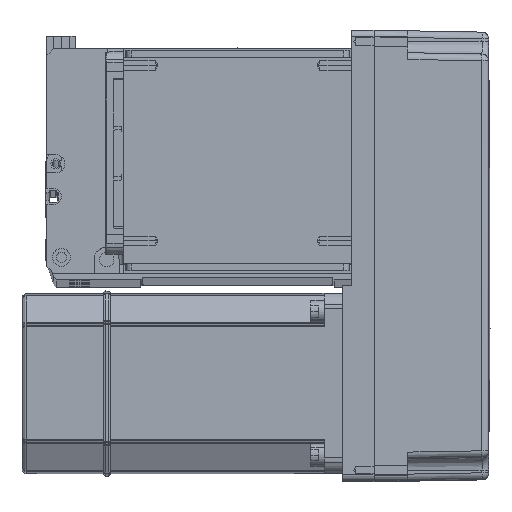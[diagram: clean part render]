
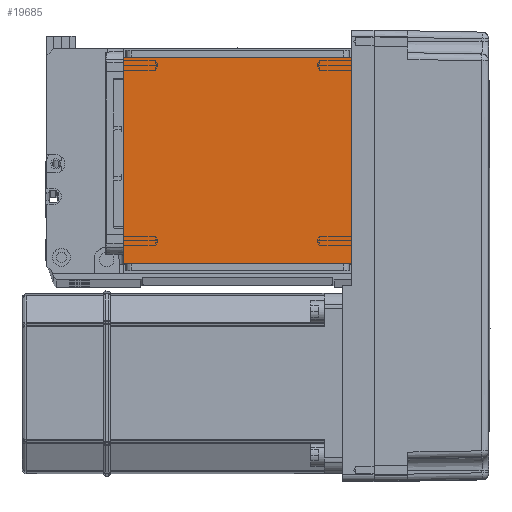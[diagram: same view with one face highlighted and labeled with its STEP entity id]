
A CAD part, top view. The second image highlights one B-rep face of the part: STEP entity #19685.
In plain terms, the highlighted planar face has unit normal (0, 0, 1).
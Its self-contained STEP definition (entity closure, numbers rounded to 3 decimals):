
#88 = EDGE_LOOP ( 'NONE', ( #20170, #49198, #53006, #60337 ) ) ;
#1055 = DIRECTION ( 'NONE',  ( 1., 0., 0. ) ) ;
#7937 = DIRECTION ( 'NONE',  ( 0., 1., 0. ) ) ;
#10559 = DIRECTION ( 'NONE',  ( 0., 0., 1. ) ) ;
#11275 = CARTESIAN_POINT ( 'NONE',  ( -50.5, 20., 115. ) ) ;
#14783 = CARTESIAN_POINT ( 'NONE',  ( -70.004, 20., 115. ) ) ;
#19685 = ADVANCED_FACE ( 'NONE', ( #60987 ), #33492, .T. ) ;
#20170 = ORIENTED_EDGE ( 'NONE', *, *, #55643, .F. ) ;
#23753 = CARTESIAN_POINT ( 'NONE',  ( 50.5, 111.5, 115. ) ) ;
#24062 = VERTEX_POINT ( 'NONE', #11275 ) ;
#24278 = DIRECTION ( 'NONE',  ( -1., 0., 0. ) ) ;
#24782 = AXIS2_PLACEMENT_3D ( 'NONE', #48301, #10559, #1055 ) ;
#25058 = EDGE_CURVE ( 'NONE', #51556, #24062, #57869, .T. ) ;
#26040 = VERTEX_POINT ( 'NONE', #23753 ) ;
#26343 = CARTESIAN_POINT ( 'NONE',  ( -70.004, 111.5, 115. ) ) ;
#31029 = VECTOR ( 'NONE', #35420, 1000. ) ;
#32951 = LINE ( 'NONE', #59318, #53595 ) ;
#33492 = PLANE ( 'NONE',  #24782 ) ;
#35420 = DIRECTION ( 'NONE',  ( 1., 0., 0. ) ) ;
#40997 = DIRECTION ( 'NONE',  ( 0., -1., 0. ) ) ;
#45245 = VECTOR ( 'NONE', #40997, 1000. ) ;
#45552 = CARTESIAN_POINT ( 'NONE',  ( -50.5, 122., 115. ) ) ;
#46168 = EDGE_CURVE ( 'NONE', #48644, #26040, #32951, .T. ) ;
#47996 = LINE ( 'NONE', #26343, #31029 ) ;
#48301 = CARTESIAN_POINT ( 'NONE',  ( 0., 0., 115. ) ) ;
#48644 = VERTEX_POINT ( 'NONE', #58447 ) ;
#49198 = ORIENTED_EDGE ( 'NONE', *, *, #25058, .T. ) ;
#50679 = VECTOR ( 'NONE', #24278, 1000. ) ;
#51556 = VERTEX_POINT ( 'NONE', #54545 ) ;
#52975 = LINE ( 'NONE', #14783, #50679 ) ;
#53006 = ORIENTED_EDGE ( 'NONE', *, *, #53622, .F. ) ;
#53595 = VECTOR ( 'NONE', #7937, 1000. ) ;
#53622 = EDGE_CURVE ( 'NONE', #48644, #24062, #52975, .T. ) ;
#54545 = CARTESIAN_POINT ( 'NONE',  ( -50.5, 111.5, 115. ) ) ;
#55643 = EDGE_CURVE ( 'NONE', #51556, #26040, #47996, .T. ) ;
#57869 = LINE ( 'NONE', #45552, #45245 ) ;
#58447 = CARTESIAN_POINT ( 'NONE',  ( 50.5, 20., 115. ) ) ;
#59318 = CARTESIAN_POINT ( 'NONE',  ( 50.5, 122., 115. ) ) ;
#60337 = ORIENTED_EDGE ( 'NONE', *, *, #46168, .T. ) ;
#60987 = FACE_OUTER_BOUND ( 'NONE', #88, .T. ) ;
